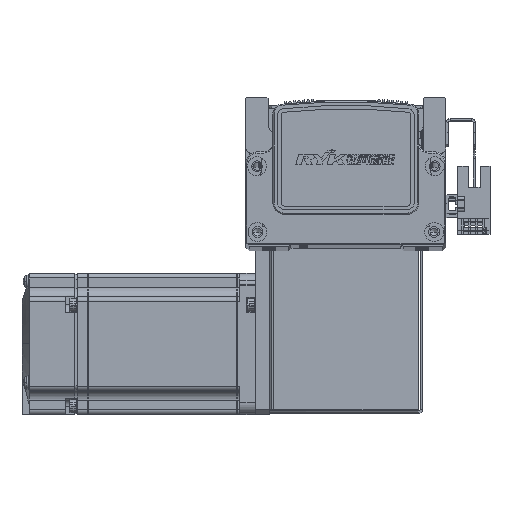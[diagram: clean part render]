
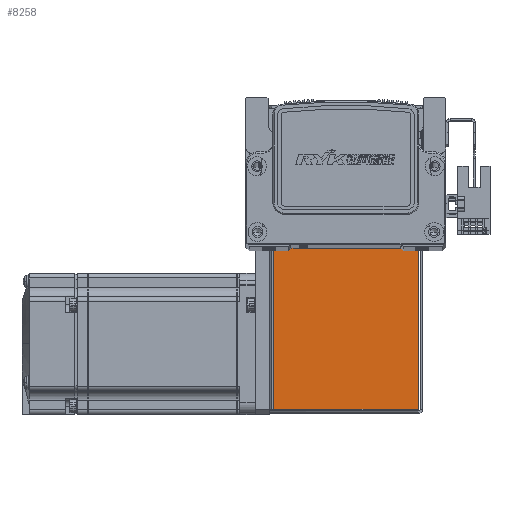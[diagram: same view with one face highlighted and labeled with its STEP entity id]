
A CAD part, top view. The second image highlights one B-rep face of the part: STEP entity #8258.
In plain terms, the highlighted planar face has unit normal (0, 0, 1) as drawn and (0, 0, -1) by its records, which use the part's own axes.
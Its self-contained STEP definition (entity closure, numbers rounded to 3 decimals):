
#8258 = ADVANCED_FACE ( 'NONE', ( #75495 ), #48275, .F. ) ;
#11361 = VERTEX_POINT ( 'NONE', #54947 ) ;
#11373 = VERTEX_POINT ( 'NONE', #55112 ) ;
#11380 = VERTEX_POINT ( 'NONE', #55114 ) ;
#16409 = EDGE_LOOP ( 'NONE', ( #39848, #39814, #39822, #39840 ) ) ;
#16454 = VERTEX_POINT ( 'NONE', #50583 ) ;
#38234 = DIRECTION ( 'NONE',  ( 0., 1., 0. ) ) ;
#39250 = CARTESIAN_POINT ( 'NONE',  ( 30.763, 72.5, -35. ) ) ;
#39257 = DIRECTION ( 'NONE',  ( 0., -1., 0. ) ) ;
#39385 = CARTESIAN_POINT ( 'NONE',  ( -30.793, 0., -35. ) ) ;
#39414 = DIRECTION ( 'NONE',  ( 1., 0., 0. ) ) ;
#39442 = CARTESIAN_POINT ( 'NONE',  ( 0., 72.5, -35. ) ) ;
#39814 = ORIENTED_EDGE ( 'NONE', *, *, #71525, .F. ) ;
#39822 = ORIENTED_EDGE ( 'NONE', *, *, #71510, .T. ) ;
#39840 = ORIENTED_EDGE ( 'NONE', *, *, #71499, .T. ) ;
#39848 = ORIENTED_EDGE ( 'NONE', *, *, #71443, .T. ) ;
#41022 = CARTESIAN_POINT ( 'NONE',  ( 32.5, 0.737, -35. ) ) ;
#41041 = DIRECTION ( 'NONE',  ( 1., 0., 0. ) ) ;
#46808 = LINE ( 'NONE', #39250, #46818 ) ;
#46818 = VECTOR ( 'NONE', #39257, 1000. ) ;
#46880 = VECTOR ( 'NONE', #39414, 1000. ) ;
#46908 = LINE ( 'NONE', #39442, #46880 ) ;
#46927 = LINE ( 'NONE', #39385, #46973 ) ;
#46928 = VECTOR ( 'NONE', #41041, 1000. ) ;
#46929 = LINE ( 'NONE', #41022, #46928 ) ;
#46973 = VECTOR ( 'NONE', #38234, 1000. ) ;
#48275 = PLANE ( 'NONE',  #72292 ) ;
#48280 = CARTESIAN_POINT ( 'NONE',  ( 0., 0., -35. ) ) ;
#48328 = DIRECTION ( 'NONE',  ( 0., 0., 1. ) ) ;
#48351 = DIRECTION ( 'NONE',  ( 0., -1., 0. ) ) ;
#50583 = CARTESIAN_POINT ( 'NONE',  ( -30.793, 72.5, -35. ) ) ;
#54947 = CARTESIAN_POINT ( 'NONE',  ( -30.793, 0.737, -35. ) ) ;
#55112 = CARTESIAN_POINT ( 'NONE',  ( 30.763, 0.737, -35. ) ) ;
#55114 = CARTESIAN_POINT ( 'NONE',  ( 30.763, 72.5, -35. ) ) ;
#71443 = EDGE_CURVE ( 'NONE', #11380, #11373, #46808, .T. ) ;
#71499 = EDGE_CURVE ( 'NONE', #16454, #11380, #46908, .T. ) ;
#71510 = EDGE_CURVE ( 'NONE', #11361, #16454, #46927, .T. ) ;
#71525 = EDGE_CURVE ( 'NONE', #11361, #11373, #46929, .T. ) ;
#72292 = AXIS2_PLACEMENT_3D ( 'NONE', #48280, #48328, #48351 ) ;
#75495 = FACE_OUTER_BOUND ( 'NONE', #16409, .T. ) ;
